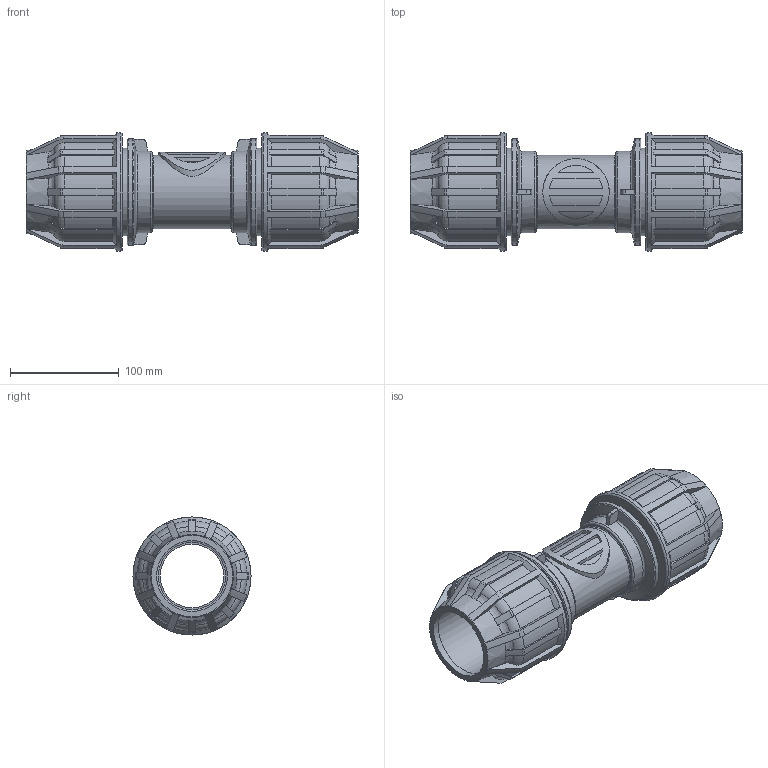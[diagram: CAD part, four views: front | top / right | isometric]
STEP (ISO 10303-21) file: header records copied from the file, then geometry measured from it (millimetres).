
FILE_DESCRIPTION(/* description */ ('STEP AP214'),/* implementation_level */ '2;1');
FILE_NAME(/* name */ '331B00063(400)',/* time_stamp */ '2025-01-13T14:33:03+01:00',/* author */ ('License CC BY-ND 4.0'),/* organization */ ('CADENAS'),/* preprocessor_version */ 'ST-DEVELOPER v19.3',/* originating_system */ 'PARTsolutions',/* authorisation */ ' ');
FILE_SCHEMA (('MODEL_BASED_INTEGRATED_MANUFACTURING_SCHEMA','AUTOMOTIVE_DESIGN {1 0 10303 214 3 1 1}'));
Length unit declared in the file: millimetre
Products named in the file (1): 331B00063(400)
Bounding box: 305 x 108.5 x 108.5 mm (x, y, z)
Volume: 891648.6 mm3; surface area: 185070.2 mm2
Topology: 1 solids, 1 shells, 362 faces, 1024 edges, 679 vertices
Faces by surface type: torus 114, plane 98, cylinder 82, cone 68
Full cylindrical faces by diameter (mm): 58.5 x1, 61 x1, 65 x2, 67 x2, 67.27 x1, 74.865 x2, 80.29 x2, 97.65 x2, 108.5 x2
Entity records: 12384 total; most frequent: CARTESIAN_POINT 3735, ORIENTED_EDGE 1972, DIRECTION 1578, EDGE_CURVE 986, AXIS2_PLACEMENT_3D 695, VERTEX_POINT 670, B_SPLINE_CURVE_WITH_KNOTS 466, EDGE_LOOP 408
